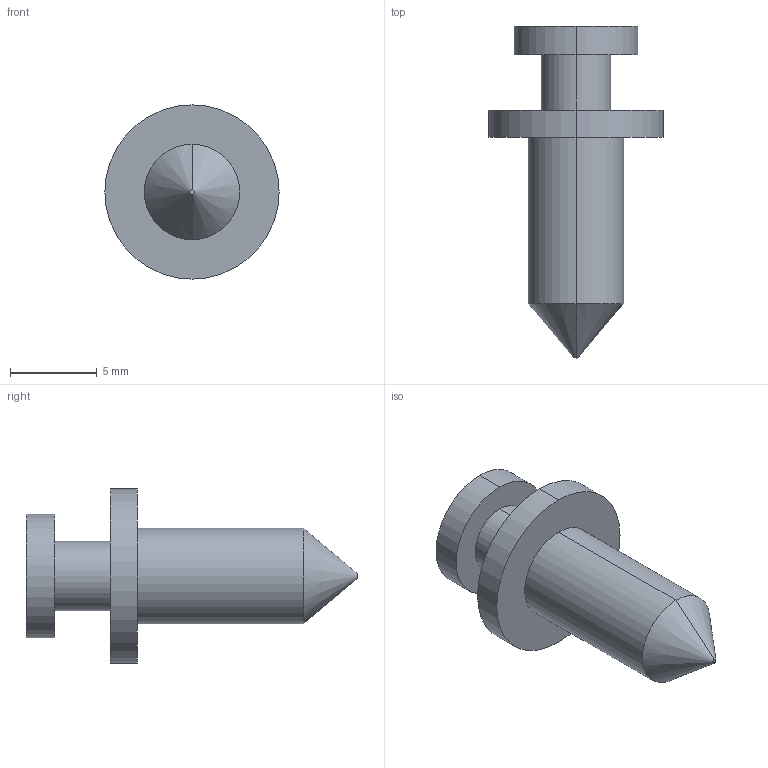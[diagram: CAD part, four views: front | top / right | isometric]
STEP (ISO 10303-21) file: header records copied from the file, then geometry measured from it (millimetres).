
FILE_DESCRIPTION (( 'STEP AP214' ), '1' );
FILE_NAME ('1065_V01_REF_PRT_SH_SCR.STEP', '2026-01-20T14:43:53', ( '' ), ( '' ), 'SwSTEP 2.0', 'SolidWorks 2025', '' );
FILE_SCHEMA (( 'AUTOMOTIVE_DESIGN' ));
Length unit declared in the file: inch
Products named in the file (1): 1065_V01_REF_PRT_SH_SCR
Bounding box: 10.03 x 19.1 x 10.03 mm (x, y, z)
Volume: 481.5 mm3; surface area: 516.8 mm2
Topology: 1 solids, 1 shells, 15 faces, 28 edges, 18 vertices
Faces by surface type: cylinder 8, plane 5, cone 2
Entity records: 411 total; most frequent: DIRECTION 78, CARTESIAN_POINT 62, ORIENTED_EDGE 56, AXIS2_PLACEMENT_3D 34, EDGE_CURVE 28, EDGE_LOOP 18, CIRCLE 18, VERTEX_POINT 18
